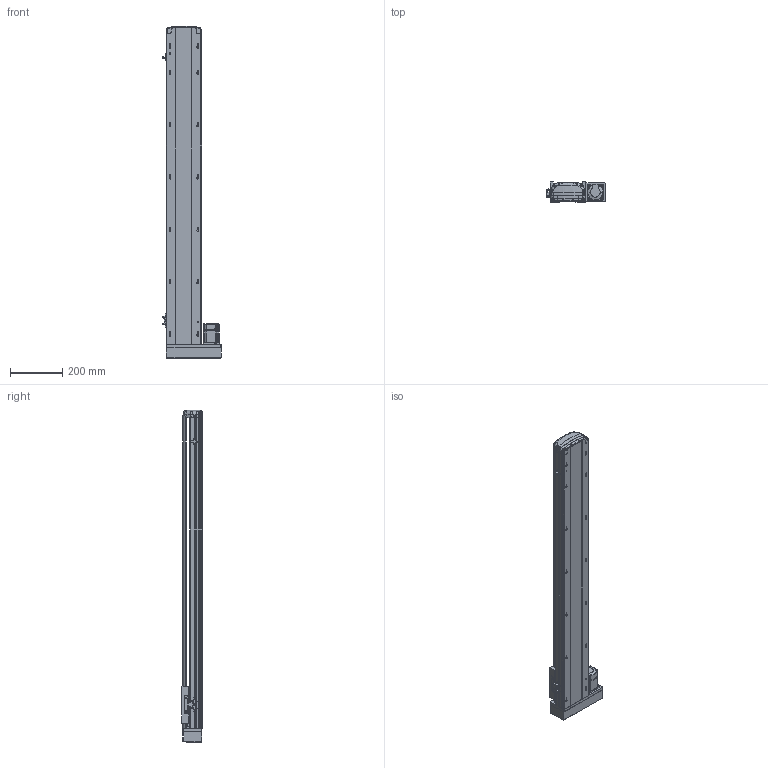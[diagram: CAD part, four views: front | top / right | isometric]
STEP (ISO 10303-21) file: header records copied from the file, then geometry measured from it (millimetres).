
FILE_DESCRIPTION (( 'STEP AP214' ), '1' );
FILE_NAME ('RTH14-XX-1000-R-M20-C4.STEP', '2025-10-24T09:58:04', ( 'Microsoft' ), ( 'Microsoft' ), 'SwSTEP 2.0', 'SolidWorks 2018', '' );
FILE_SCHEMA (( 'AUTOMOTIVE_DESIGN' ));
Length unit declared in the file: millimetre
Products named in the file (10): N_RTH13-L-008-P20 萇儂啣酘蛌殏^RTH14-XX-XX-R-M20-C4; N_OMRON EE-SX672 传感器^RTH14-XX-XX-R-M20-C4; N_RTH14-M-011P菁釱^RTH14-XX-XX-R-M20-C4; N_MSMD022P1AA_200W^RTH14-XX-XX-R-M20-C4; N_RTH13-L-018 裔赽^RTH14-XX-XX-R-M20-C4; N_RTH14-R-004-SFSR16賑釱^RTH14-XX-XX-R-M20-C4; N_RTH14-M-007P奻裔^RTH14-XX-XX-R-M20-C4; RTH14-XX-1000-R-M20-C4; N_RTH13-L-012感应片（外置）^RTH14-XX-XX-R-M20-C4; N_RTH14-GY-001P^RTH14-XX-XX-R-M20-C4
Assembly tree (11 placements, depth 2):
  RTH14-XX-1000-R-M20-C4
    N_RTH14-M-011P菁釱^RTH14-XX-XX-R-M20-C4
    N_RTH14-M-007P奻裔^RTH14-XX-XX-R-M20-C4
    N_MSMD022P1AA_200W^RTH14-XX-XX-R-M20-C4
    N_RTH13-L-008-P20 萇儂啣酘蛌殏^RTH14-XX-XX-R-M20-C4
    N_RTH13-L-018 裔赽^RTH14-XX-XX-R-M20-C4
    N_RTH13-L-012感应片（外置）^RTH14-XX-XX-R-M20-C4
    N_OMRON EE-SX672 传感器^RTH14-XX-XX-R-M20-C4  x3
    N_RTH14-R-004-SFSR16賑釱^RTH14-XX-XX-R-M20-C4
    N_RTH14-GY-001P^RTH14-XX-XX-R-M20-C4
Bounding box: 224 x 78.03 x 1267.73 mm (x, y, z)
Volume: 5428967.3 mm3; surface area: 1262680.3 mm2
Topology: 10 solids, 12 shells, 1897 faces, 5314 edges, 3485 vertices
Faces by surface type: plane 993, cylinder 509, bspline 346, cone 45, torus 4
Entity records: 58229 total; most frequent: CARTESIAN_POINT 23361, ORIENTED_EDGE 7685, DIRECTION 6208, EDGE_CURVE 3848, VERTEX_POINT 2521, LINE 2182, VECTOR 2182, AXIS2_PLACEMENT_3D 2013
